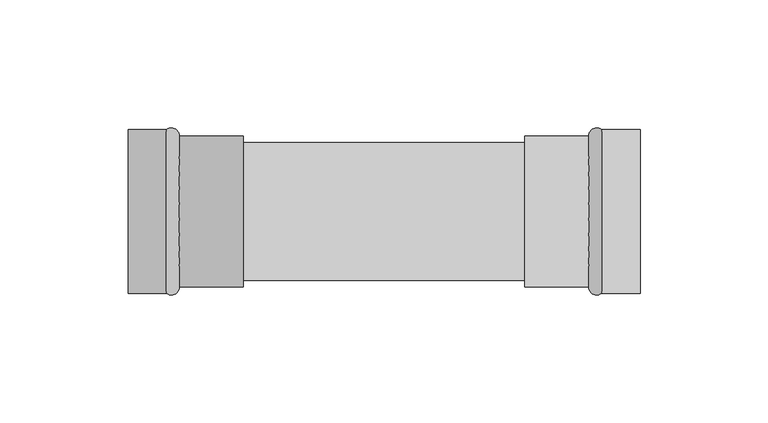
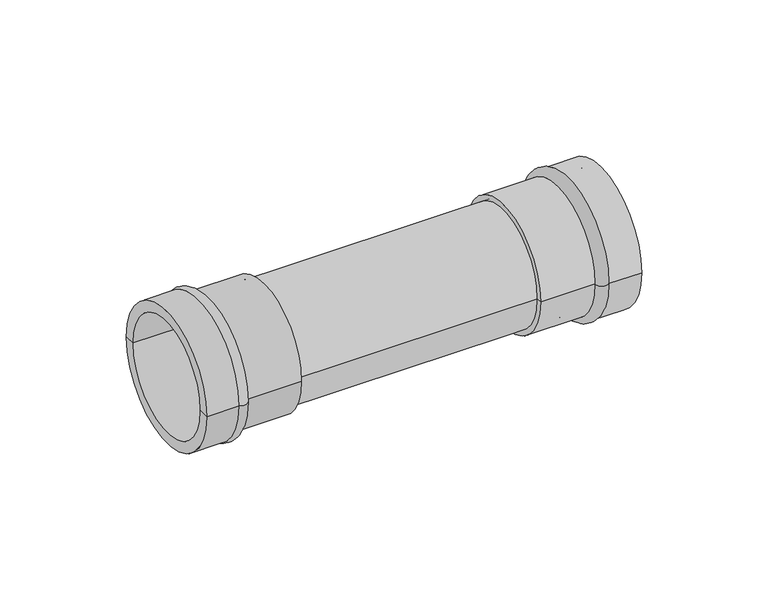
"""IFC4 building model written with IfcOpenShell, lengths in millimetres: pipe fitting geometry, VALTEC_VTi.903.I_Соединитель прямой нержавеющая сталь : VTi.903.I."""

from ifc_helpers import new_model, si_unit, point, frame, origin, origin_2d, place, context, project, spatial, polyline, circle_curve, ellipse_curve, trimmed, segment, composite_curve, outline, extrude, source, transform, mapped, element, save
from ifc_brep_helpers import plane_surface, cylinder_surface, revolved_surface, advanced_brep


def pipe_fitting_b1afa36b(model_context):
    return source(origin(), model_context, "Body", "SolidModel", [
        advanced_brep(
        [(0.0, -27.0, 0.0), (0.0, 27.0, 0.0), (0.0, 32.0, 0.0), (0.0, -32.0, 0.0), (45.0, -27.0, 0.0), (45.0, 27.0, 0.0), (45.0, -29.5, 0.0), (45.0, 29.5, 0.0), (20.0, -29.5, 0.0), (20.0, 29.5, 0.0), (15.0, -32.0, 0.0), (15.0, 32.0, 0.0)],
        [
            (0, 1, circle_curve(frame((0.0, 0.0, 0.0), z_axis=(1.0, 0.0, 0.0), x_axis=(0.0, 1.0, 0.0)), 27.0)),
            (1, 2),
            (2, 3, circle_curve(frame((0.0, 0.0, 0.0), z_axis=(-1.0, 0.0, 0.0), x_axis=(0.0, 1.0, 0.0)), 32.0)),
            (3, 0),
            (1, 0, circle_curve(frame((0.0, 0.0, 0.0), z_axis=(1.0, 0.0, 0.0), x_axis=(0.0, 1.0, 0.0)), 27.0)),
            (3, 2, circle_curve(frame((0.0, 0.0, 0.0), z_axis=(-1.0, 0.0, 0.0), x_axis=(0.0, 1.0, 0.0)), 32.0)),
            (4, 5, circle_curve(frame((45.0, 0.0, 0.0), z_axis=(1.0, 0.0, 0.0), x_axis=(0.0, 1.0, 0.0)), 27.0)),
            (5, 1),
            (0, 4),
            (5, 4, circle_curve(frame((45.0, 0.0, 0.0), z_axis=(1.0, 0.0, 0.0), x_axis=(0.0, 1.0, 0.0)), 27.0)),
            (6, 7, circle_curve(frame((45.0, 0.0, 0.0), z_axis=(1.0, 0.0, 0.0), x_axis=(0.0, 1.0, 0.0)), 29.5)),
            (7, 5),
            (4, 6),
            (7, 6, circle_curve(frame((45.0, 0.0, 0.0), z_axis=(1.0, 0.0, 0.0), x_axis=(0.0, 1.0, 0.0)), 29.5)),
            (8, 9, circle_curve(frame((20.0, 0.0, 0.0), z_axis=(1.0, 0.0, 0.0), x_axis=(0.0, 1.0, 0.0)), 29.5)),
            (9, 7),
            (6, 8),
            (9, 8, circle_curve(frame((20.0, 0.0, 0.0), z_axis=(1.0, 0.0, 0.0), x_axis=(0.0, 1.0, 0.0)), 29.5)),
            (10, 11, circle_curve(frame((15.0, 0.0, 0.0), z_axis=(1.0, 0.0, 0.0), x_axis=(0.0, 1.0, 0.0)), 32.0)),
            (11, 9, circle_curve(frame((16.9311725, 29.612345, 0.0), z_axis=(0.0, 0.0, -1.0), x_axis=(1.0, 0.0, 0.0)), 3.0708832)),
            (8, 10, circle_curve(frame((16.9311725, -29.612345, 0.0), z_axis=(0.0, 0.0, -1.0), x_axis=(1.0, 0.0, 0.0)), 3.0708832)),
            (11, 10, circle_curve(frame((15.0, 0.0, 0.0), z_axis=(1.0, 0.0, 0.0), x_axis=(0.0, 1.0, 0.0)), 32.0)),
            (2, 11),
            (10, 3),
        ],
        [
            plane_surface(frame((0.0, 0.0, 0.0), z_axis=(-1.0, 0.0, 0.0), x_axis=(0.0, 1.0, 0.0))),
            revolved_surface(polyline([(0.0, 27.0, 0.0), (45.0, 27.0, 0.0)]), (29.5993608, 0.0, 0.0), (-1.0, 0.0, 0.0)),
            plane_surface(frame((45.0, 0.0, 0.0), z_axis=(1.0, 0.0, 0.0), x_axis=(0.0, 1.0, 0.0))),
            cylinder_surface(frame((29.5993608, 0.0, 0.0), z_axis=(-1.0, 0.0, 0.0), x_axis=(0.0, 1.0, 0.0)), 29.5),
            revolved_surface(trimmed(ellipse_curve(frame((16.9311725, 29.612345, 0.0), z_axis=(0.0, 0.0, 1.0), x_axis=(1.0, 0.0, 0.0)), 3.0708832, 3.0708832), [point((20.0, 29.5, 0.0))], [point((15.0, 32.0, 0.0))], True, "CARTESIAN"), (29.5993608, 0.0, 0.0), (-1.0, 0.0, 0.0)),
            cylinder_surface(frame((29.5993608, 0.0, 0.0), z_axis=(-1.0, 0.0, 0.0), x_axis=(0.0, 1.0, 0.0)), 32.0),
        ],
        [
            (0, [[1, 2, 3, 4]]),
            (0, [[5, -4, 6, -2]]),
            (1, [[7, 8, -1, 9]]),
            (1, [[10, -9, -5, -8]]),
            (2, [[11, 12, -7, 13]]),
            (2, [[14, -13, -10, -12]]),
            (3, [[15, 16, -11, 17]]),
            (3, [[18, -17, -14, -16]]),
            (4, [[19, 20, -15, 21]]),
            (4, [[22, -21, -18, -20]]),
            (5, [[-3, 23, -19, 24]]),
            (5, [[-6, -24, -22, -23]]),
        ],
    ),
        advanced_brep(
        [(200.0, 27.0, 0.0), (200.0, -27.0, 0.0), (200.0, -32.0, 0.0), (200.0, 32.0, 0.0), (155.0, 27.0, 0.0), (155.0, -27.0, 0.0), (155.0, 29.5, 0.0), (155.0, -29.5, 0.0), (180.0, 29.5, 0.0), (180.0, -29.5, 0.0), (185.0, 32.0, 0.0), (185.0, -32.0, 0.0)],
        [
            (0, 1, circle_curve(frame((200.0, 0.0, 0.0), z_axis=(-1.0, 0.0, 0.0), x_axis=(0.0, -1.0, 0.0)), 27.0)),
            (1, 2),
            (2, 3, circle_curve(frame((200.0, 0.0, 0.0), z_axis=(1.0, 0.0, 0.0), x_axis=(0.0, -1.0, 0.0)), 32.0)),
            (3, 0),
            (1, 0, circle_curve(frame((200.0, 0.0, 0.0), z_axis=(-1.0, 0.0, 0.0), x_axis=(0.0, -1.0, 0.0)), 27.0)),
            (3, 2, circle_curve(frame((200.0, 0.0, 0.0), z_axis=(1.0, 0.0, 0.0), x_axis=(0.0, -1.0, 0.0)), 32.0)),
            (4, 5, circle_curve(frame((155.0, 0.0, 0.0), z_axis=(-1.0, 0.0, 0.0), x_axis=(0.0, -1.0, 0.0)), 27.0)),
            (5, 1),
            (0, 4),
            (5, 4, circle_curve(frame((155.0, 0.0, 0.0), z_axis=(-1.0, 0.0, 0.0), x_axis=(0.0, -1.0, 0.0)), 27.0)),
            (6, 7, circle_curve(frame((155.0, 0.0, 0.0), z_axis=(-1.0, 0.0, 0.0), x_axis=(0.0, -1.0, 0.0)), 29.5)),
            (7, 5),
            (4, 6),
            (7, 6, circle_curve(frame((155.0, 0.0, 0.0), z_axis=(-1.0, 0.0, 0.0), x_axis=(0.0, -1.0, 0.0)), 29.5)),
            (8, 9, circle_curve(frame((180.0, 0.0, 0.0), z_axis=(-1.0, 0.0, 0.0), x_axis=(0.0, -1.0, 0.0)), 29.5)),
            (9, 7),
            (6, 8),
            (9, 8, circle_curve(frame((180.0, 0.0, 0.0), z_axis=(-1.0, 0.0, 0.0), x_axis=(0.0, -1.0, 0.0)), 29.5)),
            (10, 11, circle_curve(frame((185.0, 0.0, 0.0), z_axis=(-1.0, 0.0, 0.0), x_axis=(0.0, -1.0, 0.0)), 32.0)),
            (11, 9, circle_curve(frame((183.0688275, -29.612345, 0.0), z_axis=(0.0, 0.0, -1.0), x_axis=(-1.0, 0.0, 0.0)), 3.0708832)),
            (8, 10, circle_curve(frame((183.0688275, 29.612345, 0.0), z_axis=(0.0, 0.0, -1.0), x_axis=(-1.0, 0.0, 0.0)), 3.0708832)),
            (11, 10, circle_curve(frame((185.0, 0.0, 0.0), z_axis=(-1.0, 0.0, 0.0), x_axis=(0.0, -1.0, 0.0)), 32.0)),
            (2, 11),
            (10, 3),
        ],
        [
            plane_surface(frame((200.0, 0.0, 0.0), z_axis=(1.0, 0.0, 0.0), x_axis=(0.0, -1.0, 0.0))),
            revolved_surface(polyline([(200.0, -27.0, 0.0), (155.0, -27.0, 0.0)]), (170.4006392, 0.0, 0.0), (1.0, 0.0, 0.0)),
            plane_surface(frame((155.0, 0.0, 0.0), z_axis=(-1.0, 0.0, 0.0), x_axis=(0.0, -1.0, 0.0))),
            cylinder_surface(frame((170.4006392, 0.0, 0.0), z_axis=(1.0, 0.0, 0.0), x_axis=(0.0, -1.0, 0.0)), 29.5),
            revolved_surface(trimmed(ellipse_curve(frame((183.0688275, -29.612345, 0.0), z_axis=(0.0, 0.0, 1.0), x_axis=(-1.0, 0.0, 0.0)), 3.0708832, 3.0708832), [point((180.0, -29.5, 0.0))], [point((185.0, -32.0, 0.0))], True, "CARTESIAN"), (170.4006392, 0.0, 0.0), (1.0, 0.0, 0.0)),
            cylinder_surface(frame((170.4006392, 0.0, 0.0), z_axis=(1.0, 0.0, 0.0), x_axis=(0.0, -1.0, 0.0)), 32.0),
        ],
        [
            (0, [[1, 2, 3, 4]]),
            (0, [[5, -4, 6, -2]]),
            (1, [[7, 8, -1, 9]]),
            (1, [[10, -9, -5, -8]]),
            (2, [[11, 12, -7, 13]]),
            (2, [[14, -13, -10, -12]]),
            (3, [[15, 16, -11, 17]]),
            (3, [[18, -17, -14, -16]]),
            (4, [[19, 20, -15, 21]]),
            (4, [[22, -21, -18, -20]]),
            (5, [[-3, 23, -19, 24]]),
            (5, [[-6, -24, -22, -23]]),
        ],
    ),
        extrude(outline(composite_curve([segment(trimmed(circle_curve(origin_2d(), 27.0), [point((-27.0, 0.0))], [point((27.0, 0.0))], False, "CARTESIAN"), True, "CONTINUOUS"), segment(trimmed(circle_curve(origin_2d(), 27.0), [point((27.0, 0.0))], [point((-27.0, 0.0))], False, "CARTESIAN"), True, "CONTINUOUS")], self_intersect=False)), frame((30.0, 0.0, 0.0), z_axis=(1.0, 0.0, 0.0), x_axis=(0.0, 1.0, 0.0)), (0.0, 0.0, 1.0), 140.0),
    ])


if __name__ == "__main__":
    model = new_model("IFC4")
    model_context = context("Model", 3, world=origin())
    ifc_project = project(units=[si_unit("LENGTHUNIT", "METRE", prefix="MILLI")], contexts=[model_context])
    site = spatial("IfcSite", under=ifc_project)
    building = spatial("IfcBuilding", under=site)
    placement = place(None, origin())
    pipe_fitting_shape = pipe_fitting_b1afa36b(model_context)
    element("IfcPipeFitting", 1, ObjectType="VALTEC_VTi.903.I_Соединитель прямой нержавеющая сталь : VTi.903.I", at=placement, inside=building, context=model_context, shape_type="MappedRepresentation", body=[
        mapped(pipe_fitting_shape, transform((0.0, 0.0, 0.0), x_axis=(1.0, 0.0, 0.0), y_axis=(0.0, 1.0, 0.0), z_axis=(0.0, 0.0, 1.0))),
    ])
    save(model, "model.ifc")
